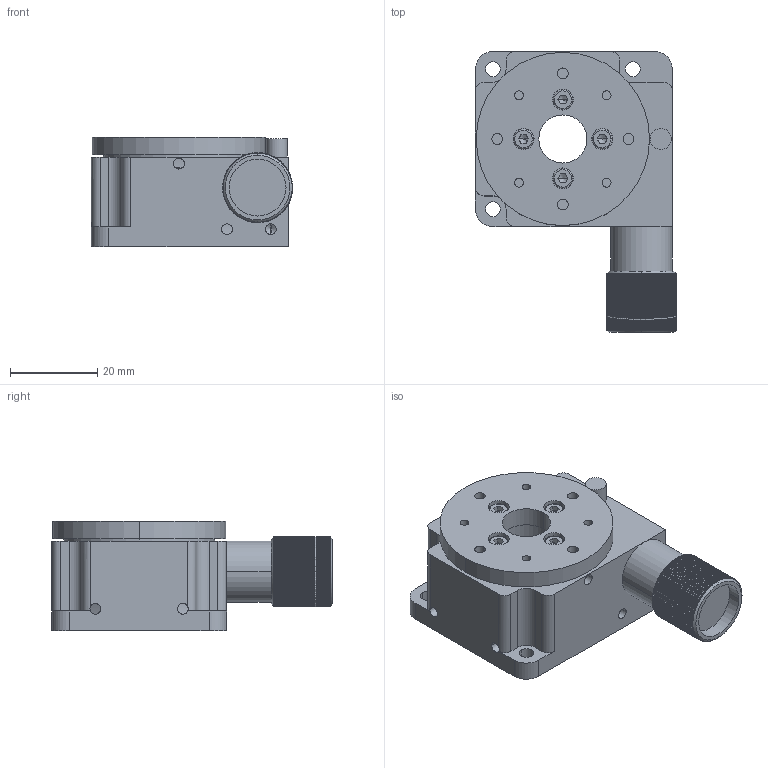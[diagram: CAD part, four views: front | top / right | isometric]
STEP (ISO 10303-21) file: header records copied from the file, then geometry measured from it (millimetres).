
FILE_DESCRIPTION (( 'STEP AP203' ), '1' );
FILE_NAME ('7R174-11.STEP', '2007-07-13T06:58:32', ( 'STANDA' ), ( '' ), 'SwSTEP 2.0', 'SolidWorks 2003240', '' );
FILE_SCHEMA (( 'CONFIG_CONTROL_DESIGN' ));
Length unit declared in the file: millimetre
Products named in the file (1): 7R174-11
Bounding box: 46 x 64.2 x 25 mm (x, y, z)
Volume: 39004.9 mm3; surface area: 12979 mm2
Topology: 1 solids, 8 shells, 846 faces, 1981 edges, 1186 vertices
Faces by surface type: plane 563, cylinder 242, cone 27, bspline 14
Entity records: 24643 total; most frequent: CARTESIAN_POINT 5090, DIRECTION 4214, ORIENTED_EDGE 3934, EDGE_CURVE 1967, AXIS2_PLACEMENT_3D 1514, VERTEX_POINT 1186, VECTOR 1186, LINE 1186
